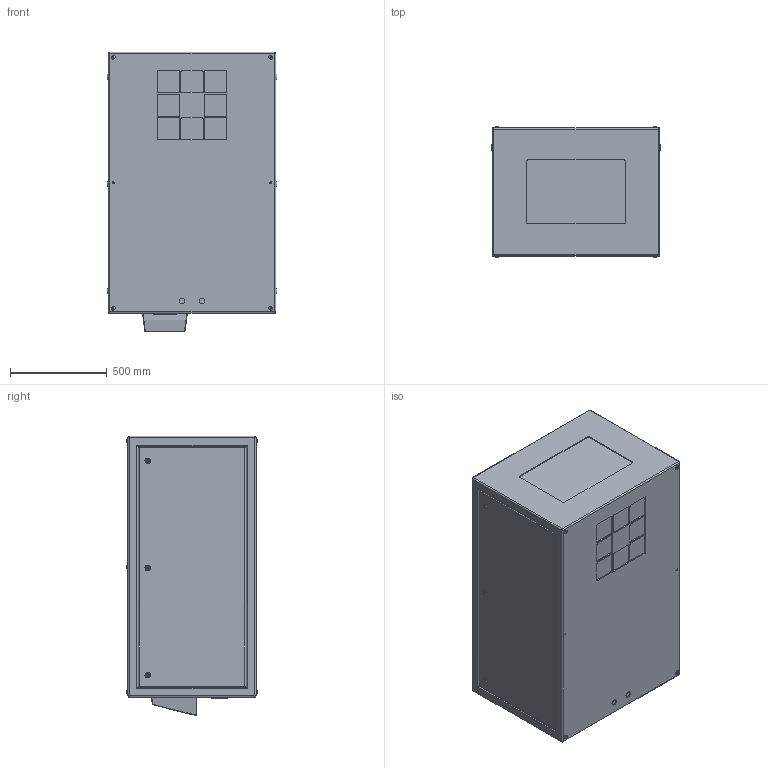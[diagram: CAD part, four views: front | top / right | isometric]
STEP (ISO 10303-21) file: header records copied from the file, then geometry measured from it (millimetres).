
FILE_DESCRIPTION (( 'STEP AP214' ), '1' );
FILE_NAME ('Cyclone 55.240.L.xx R08.STEP', '2020-04-07T14:43:19', ( '' ), ( '' ), 'SwSTEP 2.0', 'SolidWorks 2018', '' );
FILE_SCHEMA (( 'AUTOMOTIVE_DESIGN' ));
Length unit declared in the file: inch
Products named in the file (1): Cyclone 55.240.L.xx R08
Bounding box: 876.3 x 675.13 x 1441.45 mm (x, y, z)
Volume: 765819086.2 mm3; surface area: 5800339.8 mm2
Topology: 1 solids, 1 shells, 479 faces, 1118 edges, 712 vertices
Faces by surface type: plane 257, cylinder 170, torus 44, sphere 8
Entity records: 17242 total; most frequent: DIRECTION 2450, CARTESIAN_POINT 2350, ORIENTED_EDGE 2220, EDGE_CURVE 1110, AXIS2_PLACEMENT_3D 876, VERTEX_POINT 712, VECTOR 698, LINE 698
